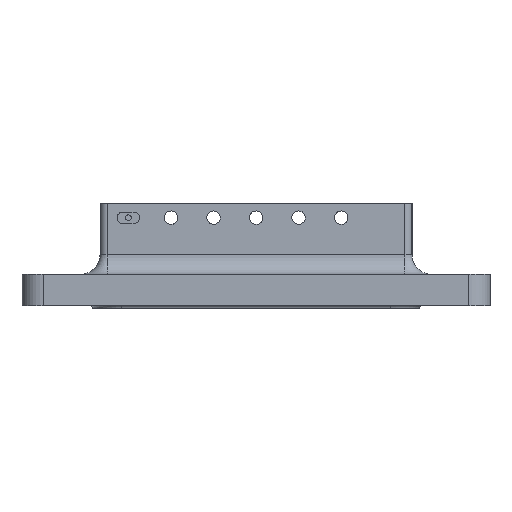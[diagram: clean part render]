
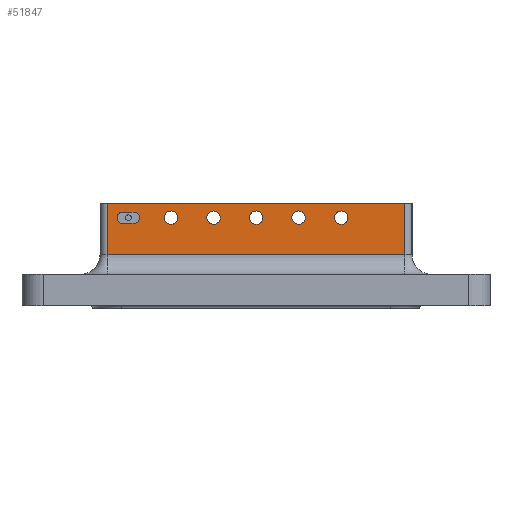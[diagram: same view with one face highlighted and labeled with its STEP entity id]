
A CAD part, left-side view. The second image highlights one B-rep face of the part: STEP entity #51847.
In plain terms, the highlighted planar face has unit normal (-1, 0, 0).
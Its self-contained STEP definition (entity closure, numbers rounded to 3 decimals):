
#47106=CARTESIAN_POINT('Vertex',(-185.,105.,74.)) ;
#47109=CARTESIAN_POINT('Line Origine',(-185.,0.,74.)) ;
#47113=CARTESIAN_POINT('Vertex',(-185.,-105.,74.)) ;
#51681=CARTESIAN_POINT('Line Origine',(-185.,105.,49.)) ;
#51685=CARTESIAN_POINT('Vertex',(-185.,105.,38.)) ;
#51700=CARTESIAN_POINT('Axis2P3D Location',(-185.,-110.,24.)) ;
#51705=CARTESIAN_POINT('Line Origine',(-185.,0.,38.)) ;
#51709=CARTESIAN_POINT('Vertex',(-185.,-105.,38.)) ;
#51712=CARTESIAN_POINT('Line Origine',(-185.,-105.,56.)) ;
#51723=CARTESIAN_POINT('Axis2P3D Location',(-185.,94.,64.)) ;
#51727=CARTESIAN_POINT('Vertex',(-185.,94.,60.)) ;
#51729=CARTESIAN_POINT('Vertex',(-185.,94.,68.)) ;
#51732=CARTESIAN_POINT('Line Origine',(-185.,90.,68.)) ;
#51736=CARTESIAN_POINT('Vertex',(-185.,86.,68.)) ;
#51739=CARTESIAN_POINT('Axis2P3D Location',(-185.,86.,64.)) ;
#51743=CARTESIAN_POINT('Vertex',(-185.,86.,60.)) ;
#51746=CARTESIAN_POINT('Line Origine',(-185.,90.,60.)) ;
#51757=CARTESIAN_POINT('Axis2P3D Location',(-185.,60.,64.)) ;
#51761=CARTESIAN_POINT('Vertex',(-185.,64.169,61.723)) ;
#51763=CARTESIAN_POINT('Vertex',(-185.,55.831,66.277)) ;
#51766=CARTESIAN_POINT('Axis2P3D Location',(-185.,60.,64.)) ;
#51775=CARTESIAN_POINT('Axis2P3D Location',(-185.,30.,64.)) ;
#51779=CARTESIAN_POINT('Vertex',(-185.,34.169,61.723)) ;
#51781=CARTESIAN_POINT('Vertex',(-185.,25.831,66.277)) ;
#51784=CARTESIAN_POINT('Axis2P3D Location',(-185.,30.,64.)) ;
#51793=CARTESIAN_POINT('Axis2P3D Location',(-185.,0.,64.)) ;
#51797=CARTESIAN_POINT('Vertex',(-185.,4.169,61.723)) ;
#51799=CARTESIAN_POINT('Vertex',(-185.,-4.169,66.277)) ;
#51802=CARTESIAN_POINT('Axis2P3D Location',(-185.,0.,64.)) ;
#51811=CARTESIAN_POINT('Axis2P3D Location',(-185.,-30.,64.)) ;
#51815=CARTESIAN_POINT('Vertex',(-185.,-25.831,61.723)) ;
#51817=CARTESIAN_POINT('Vertex',(-185.,-34.169,66.277)) ;
#51820=CARTESIAN_POINT('Axis2P3D Location',(-185.,-30.,64.)) ;
#51829=CARTESIAN_POINT('Axis2P3D Location',(-185.,-60.,64.)) ;
#51833=CARTESIAN_POINT('Vertex',(-185.,-55.831,61.723)) ;
#51835=CARTESIAN_POINT('Vertex',(-185.,-64.169,66.277)) ;
#51838=CARTESIAN_POINT('Axis2P3D Location',(-185.,-60.,64.)) ;
#47110=DIRECTION('Vector Direction',(0.,1.,0.)) ;
#51682=DIRECTION('Vector Direction',(0.,0.,1.)) ;
#51701=DIRECTION('Axis2P3D Direction',(1.,0.,0.)) ;
#51702=DIRECTION('Axis2P3D XDirection',(0.,1.,0.)) ;
#51706=DIRECTION('Vector Direction',(0.,1.,0.)) ;
#51713=DIRECTION('Vector Direction',(0.,0.,1.)) ;
#51724=DIRECTION('Axis2P3D Direction',(1.,0.,0.)) ;
#51733=DIRECTION('Vector Direction',(0.,-1.,0.)) ;
#51740=DIRECTION('Axis2P3D Direction',(1.,0.,0.)) ;
#51747=DIRECTION('Vector Direction',(0.,1.,0.)) ;
#51758=DIRECTION('Axis2P3D Direction',(1.,0.,0.)) ;
#51767=DIRECTION('Axis2P3D Direction',(1.,0.,0.)) ;
#51776=DIRECTION('Axis2P3D Direction',(1.,0.,0.)) ;
#51785=DIRECTION('Axis2P3D Direction',(1.,0.,0.)) ;
#51794=DIRECTION('Axis2P3D Direction',(1.,0.,0.)) ;
#51803=DIRECTION('Axis2P3D Direction',(1.,0.,0.)) ;
#51812=DIRECTION('Axis2P3D Direction',(1.,0.,0.)) ;
#51821=DIRECTION('Axis2P3D Direction',(1.,0.,0.)) ;
#51830=DIRECTION('Axis2P3D Direction',(1.,0.,0.)) ;
#51839=DIRECTION('Axis2P3D Direction',(1.,0.,0.)) ;
#51703=AXIS2_PLACEMENT_3D('Plane Axis2P3D',#51700,#51701,#51702) ;
#51725=AXIS2_PLACEMENT_3D('Circle Axis2P3D',#51723,#51724,$) ;
#51741=AXIS2_PLACEMENT_3D('Circle Axis2P3D',#51739,#51740,$) ;
#51759=AXIS2_PLACEMENT_3D('Circle Axis2P3D',#51757,#51758,$) ;
#51768=AXIS2_PLACEMENT_3D('Circle Axis2P3D',#51766,#51767,$) ;
#51777=AXIS2_PLACEMENT_3D('Circle Axis2P3D',#51775,#51776,$) ;
#51786=AXIS2_PLACEMENT_3D('Circle Axis2P3D',#51784,#51785,$) ;
#51795=AXIS2_PLACEMENT_3D('Circle Axis2P3D',#51793,#51794,$) ;
#51804=AXIS2_PLACEMENT_3D('Circle Axis2P3D',#51802,#51803,$) ;
#51813=AXIS2_PLACEMENT_3D('Circle Axis2P3D',#51811,#51812,$) ;
#51822=AXIS2_PLACEMENT_3D('Circle Axis2P3D',#51820,#51821,$) ;
#51831=AXIS2_PLACEMENT_3D('Circle Axis2P3D',#51829,#51830,$) ;
#51840=AXIS2_PLACEMENT_3D('Circle Axis2P3D',#51838,#51839,$) ;
#51718=ORIENTED_EDGE('',*,*,#51711,.F.) ;
#51719=ORIENTED_EDGE('',*,*,#51716,.T.) ;
#51720=ORIENTED_EDGE('',*,*,#47115,.F.) ;
#51721=ORIENTED_EDGE('',*,*,#51687,.F.) ;
#51752=ORIENTED_EDGE('',*,*,#51731,.T.) ;
#51753=ORIENTED_EDGE('',*,*,#51738,.T.) ;
#51754=ORIENTED_EDGE('',*,*,#51745,.T.) ;
#51755=ORIENTED_EDGE('',*,*,#51750,.T.) ;
#51772=ORIENTED_EDGE('',*,*,#51765,.T.) ;
#51773=ORIENTED_EDGE('',*,*,#51770,.T.) ;
#51790=ORIENTED_EDGE('',*,*,#51783,.T.) ;
#51791=ORIENTED_EDGE('',*,*,#51788,.T.) ;
#51808=ORIENTED_EDGE('',*,*,#51801,.T.) ;
#51809=ORIENTED_EDGE('',*,*,#51806,.T.) ;
#51826=ORIENTED_EDGE('',*,*,#51819,.T.) ;
#51827=ORIENTED_EDGE('',*,*,#51824,.T.) ;
#51844=ORIENTED_EDGE('',*,*,#51837,.T.) ;
#51845=ORIENTED_EDGE('',*,*,#51842,.T.) ;
#51756=FACE_BOUND('',#51751,.T.) ;
#51774=FACE_BOUND('',#51771,.T.) ;
#51792=FACE_BOUND('',#51789,.T.) ;
#51810=FACE_BOUND('',#51807,.T.) ;
#51828=FACE_BOUND('',#51825,.T.) ;
#51846=FACE_BOUND('',#51843,.T.) ;
#47111=VECTOR('Line Direction',#47110,1.) ;
#51683=VECTOR('Line Direction',#51682,1.) ;
#51707=VECTOR('Line Direction',#51706,1.) ;
#51714=VECTOR('Line Direction',#51713,1.) ;
#51734=VECTOR('Line Direction',#51733,1.) ;
#51748=VECTOR('Line Direction',#51747,1.) ;
#51847=ADVANCED_FACE('EGT016__262242_REV_01.2\\Base plate',(#51722,#51756,#51774,#51792,#51810,#51828,#51846),#51704,.F.) ;
#51726=CIRCLE('generated circle',#51725,4.) ;
#51742=CIRCLE('generated circle',#51741,4.) ;
#51760=CIRCLE('generated circle',#51759,4.75) ;
#51769=CIRCLE('generated circle',#51768,4.75) ;
#51778=CIRCLE('generated circle',#51777,4.75) ;
#51787=CIRCLE('generated circle',#51786,4.75) ;
#51796=CIRCLE('generated circle',#51795,4.75) ;
#51805=CIRCLE('generated circle',#51804,4.75) ;
#51814=CIRCLE('generated circle',#51813,4.75) ;
#51823=CIRCLE('generated circle',#51822,4.75) ;
#51832=CIRCLE('generated circle',#51831,4.75) ;
#51841=CIRCLE('generated circle',#51840,4.75) ;
#47115=EDGE_CURVE('',#47107,#47114,#47112,.F.) ;
#51687=EDGE_CURVE('',#51686,#47107,#51684,.T.) ;
#51711=EDGE_CURVE('',#51710,#51686,#51708,.T.) ;
#51716=EDGE_CURVE('',#51710,#47114,#51715,.T.) ;
#51731=EDGE_CURVE('',#51728,#51730,#51726,.T.) ;
#51738=EDGE_CURVE('',#51730,#51737,#51735,.T.) ;
#51745=EDGE_CURVE('',#51737,#51744,#51742,.T.) ;
#51750=EDGE_CURVE('',#51744,#51728,#51749,.T.) ;
#51765=EDGE_CURVE('',#51762,#51764,#51760,.T.) ;
#51770=EDGE_CURVE('',#51764,#51762,#51769,.T.) ;
#51783=EDGE_CURVE('',#51780,#51782,#51778,.T.) ;
#51788=EDGE_CURVE('',#51782,#51780,#51787,.T.) ;
#51801=EDGE_CURVE('',#51798,#51800,#51796,.T.) ;
#51806=EDGE_CURVE('',#51800,#51798,#51805,.T.) ;
#51819=EDGE_CURVE('',#51816,#51818,#51814,.T.) ;
#51824=EDGE_CURVE('',#51818,#51816,#51823,.T.) ;
#51837=EDGE_CURVE('',#51834,#51836,#51832,.T.) ;
#51842=EDGE_CURVE('',#51836,#51834,#51841,.T.) ;
#51717=EDGE_LOOP('',(#51718,#51719,#51720,#51721)) ;
#51751=EDGE_LOOP('',(#51752,#51753,#51754,#51755)) ;
#51771=EDGE_LOOP('',(#51772,#51773)) ;
#51789=EDGE_LOOP('',(#51790,#51791)) ;
#51807=EDGE_LOOP('',(#51808,#51809)) ;
#51825=EDGE_LOOP('',(#51826,#51827)) ;
#51843=EDGE_LOOP('',(#51844,#51845)) ;
#51722=FACE_OUTER_BOUND('',#51717,.T.) ;
#47112=LINE('Line',#47109,#47111) ;
#51684=LINE('Line',#51681,#51683) ;
#51708=LINE('Line',#51705,#51707) ;
#51715=LINE('Line',#51712,#51714) ;
#51735=LINE('Line',#51732,#51734) ;
#51749=LINE('Line',#51746,#51748) ;
#51704=PLANE('',#51703) ;
#47107=VERTEX_POINT('',#47106) ;
#47114=VERTEX_POINT('',#47113) ;
#51686=VERTEX_POINT('',#51685) ;
#51710=VERTEX_POINT('',#51709) ;
#51728=VERTEX_POINT('',#51727) ;
#51730=VERTEX_POINT('',#51729) ;
#51737=VERTEX_POINT('',#51736) ;
#51744=VERTEX_POINT('',#51743) ;
#51762=VERTEX_POINT('',#51761) ;
#51764=VERTEX_POINT('',#51763) ;
#51780=VERTEX_POINT('',#51779) ;
#51782=VERTEX_POINT('',#51781) ;
#51798=VERTEX_POINT('',#51797) ;
#51800=VERTEX_POINT('',#51799) ;
#51816=VERTEX_POINT('',#51815) ;
#51818=VERTEX_POINT('',#51817) ;
#51834=VERTEX_POINT('',#51833) ;
#51836=VERTEX_POINT('',#51835) ;
